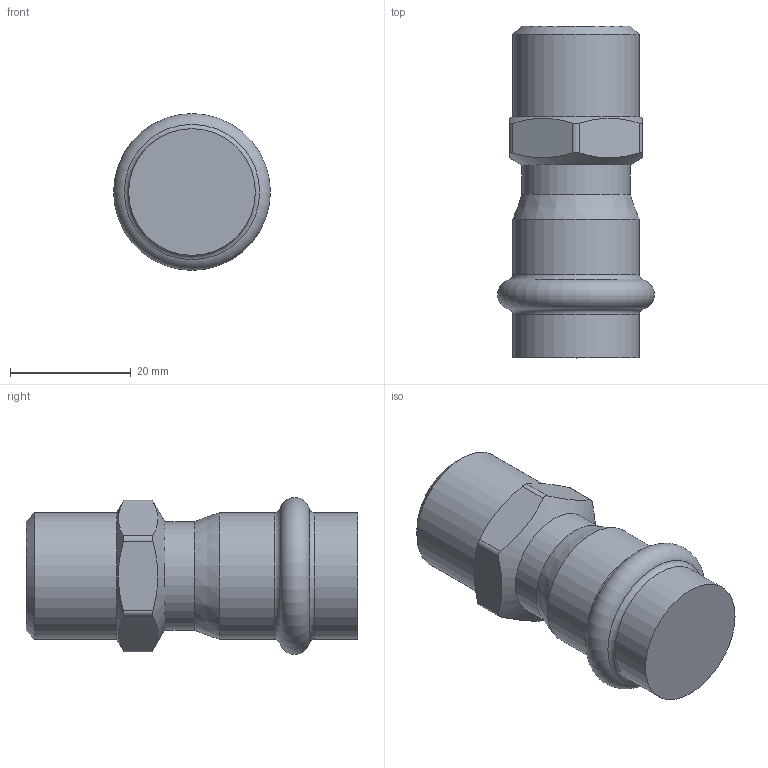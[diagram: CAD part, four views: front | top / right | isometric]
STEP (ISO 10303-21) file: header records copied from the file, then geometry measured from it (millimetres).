
FILE_DESCRIPTION(('STEP AP203'), '1');
FILE_NAME('VTi.901.I.001804', '', ('UNSPECIFIED'), ('UNSPECIFIED'), 'C3D Converter', 'C3D Toolkit', '');
FILE_SCHEMA(('CONFIG_CONTROL_DESIGN'));
Length unit declared in the file: millimetre
Bounding box: 26 x 55 x 26 mm (x, y, z)
Volume: 19474.7 mm3; surface area: 4632.4 mm2
Topology: 1 solids, 1 shells, 25 faces, 61 edges, 38 vertices
Faces by surface type: cylinder 10, plane 8, cone 4, torus 3
Full cylindrical faces by diameter (mm): 18 x1, 20.955 x1, 21 x2
Entity records: 1532 total; most frequent: CARTESIAN_POINT 990, ORIENTED_EDGE 100, DIRECTION 88, EDGE_CURVE 50, AXIS2_PLACEMENT_3D 38, VERTEX_POINT 38, EDGE_LOOP 36, B_SPLINE_CURVE_WITH_KNOTS 26
